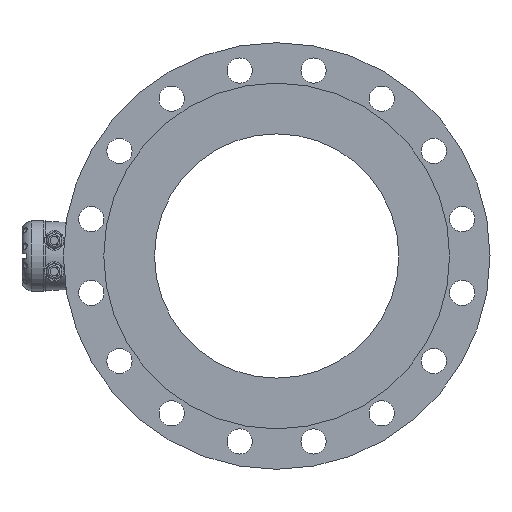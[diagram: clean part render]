
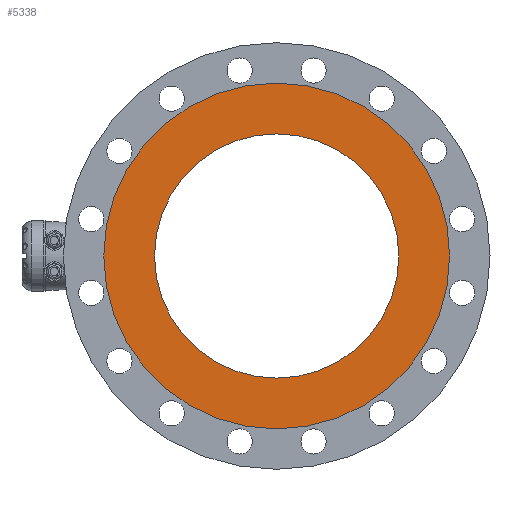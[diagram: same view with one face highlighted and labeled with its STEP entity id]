
A CAD part, left-side view. The second image highlights one B-rep face of the part: STEP entity #5338.
In plain terms, the highlighted planar face has unit normal (-1, 0, 0).
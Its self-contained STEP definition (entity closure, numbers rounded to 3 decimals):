
#10 = PLANE ( 'NONE',  #2535 ) ;
#1198 = ORIENTED_EDGE ( 'NONE', *, *, #3225, .T. ) ;
#1199 = ORIENTED_EDGE ( 'NONE', *, *, #14526, .T. ) ;
#1943 = EDGE_LOOP ( 'NONE', ( #1198 ) ) ;
#1956 = EDGE_LOOP ( 'NONE', ( #1199 ) ) ;
#2292 = AXIS2_PLACEMENT_3D ( 'NONE', #12333, #12345, #12346 ) ;
#2535 = AXIS2_PLACEMENT_3D ( 'NONE', #5723, #5733, #5734 ) ;
#3103 = AXIS2_PLACEMENT_3D ( 'NONE', #9577, #9578, #9579 ) ;
#3225 = EDGE_CURVE ( 'NONE', #9739, #9739, #10151, .T. ) ;
#5338 = ADVANCED_FACE ( 'NONE', ( #10467, #10466 ), #10, .T. ) ;
#5723 = CARTESIAN_POINT ( 'NONE',  ( -394.805, -105.517, -10.543 ) ) ;
#5733 = DIRECTION ( 'NONE',  ( -1., 0., 0. ) ) ;
#5734 = DIRECTION ( 'NONE',  ( 0., 0., 1. ) ) ;
#9383 = CIRCLE ( 'NONE', #3103, 189. ) ;
#9577 = CARTESIAN_POINT ( 'NONE',  ( -394.805, -294.517, -10.543 ) ) ;
#9578 = DIRECTION ( 'NONE',  ( 1., 0., 0. ) ) ;
#9579 = DIRECTION ( 'NONE',  ( 0., 0., -1. ) ) ;
#9739 = VERTEX_POINT ( 'NONE', #9740 ) ;
#9740 = CARTESIAN_POINT ( 'NONE',  ( -394.805, -294.517, 256.957 ) ) ;
#9939 = VERTEX_POINT ( 'NONE', #9940 ) ;
#9940 = CARTESIAN_POINT ( 'NONE',  ( -394.805, -294.517, -199.543 ) ) ;
#10151 = CIRCLE ( 'NONE', #2292, 267.5 ) ;
#10466 = FACE_OUTER_BOUND ( 'NONE', #1943, .T. ) ;
#10467 = FACE_BOUND ( 'NONE', #1956, .T. ) ;
#12333 = CARTESIAN_POINT ( 'NONE',  ( -394.805, -294.517, -10.543 ) ) ;
#12345 = DIRECTION ( 'NONE',  ( -1., 0., 0. ) ) ;
#12346 = DIRECTION ( 'NONE',  ( 0., 0., 1. ) ) ;
#14526 = EDGE_CURVE ( 'NONE', #9939, #9939, #9383, .T. ) ;
